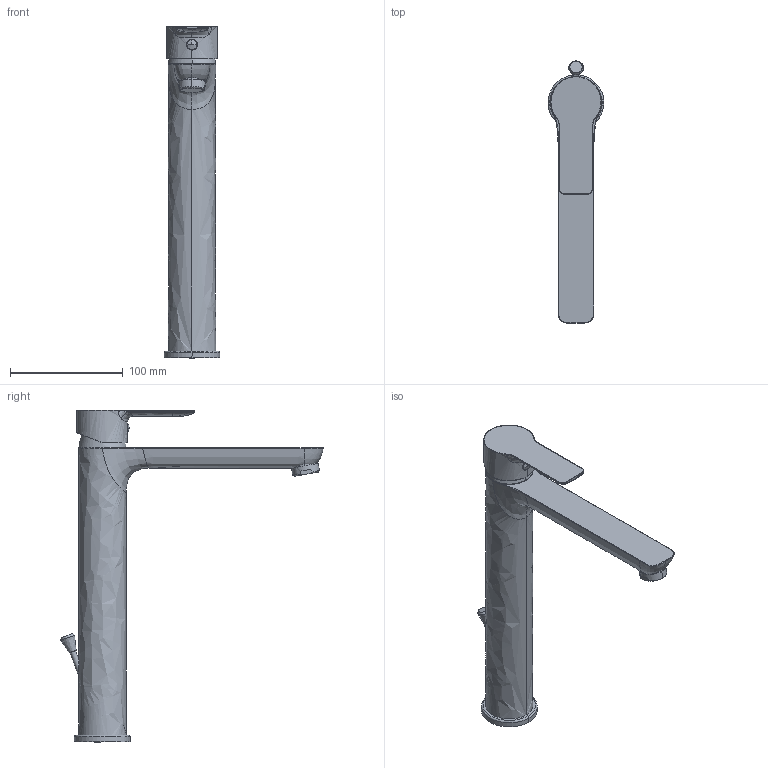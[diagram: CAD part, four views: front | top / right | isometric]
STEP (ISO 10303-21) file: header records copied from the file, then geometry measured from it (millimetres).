
FILE_DESCRIPTION(/* description */ (''),/* implementation_level */ '2;1');
FILE_NAME(/* name */ 'A11040002010',/* time_stamp */ '2019-10-21T16:05:32+02:00',/* author */ (''),/* organization */ (''),/* preprocessor_version */ 'ST-DEVELOPER v15',/* originating_system */ '',/* authorisation */ '');
FILE_SCHEMA (('AUTOMOTIVE_DESIGN'));
Length unit declared in the file: millimetre
Products named in the file (1): Document
Bounding box: 49.47 x 232.85 x 294.52 mm (x, y, z)
Volume: 9024.9 mm3; surface area: 68816.1 mm2
Topology: 3 solids, 10 shells, 140 faces, 320 edges, 197 vertices
Faces by surface type: bspline 110, plane 30
Entity records: 10419 total; most frequent: CARTESIAN_POINT 8560, ORIENTED_EDGE 608, EDGE_CURVE 317, VERTEX_POINT 197, EDGE_LOOP 156, ADVANCED_FACE 140, FACE_OUTER_BOUND 140, B_SPLINE_CURVE_WITH_KNOTS 120
